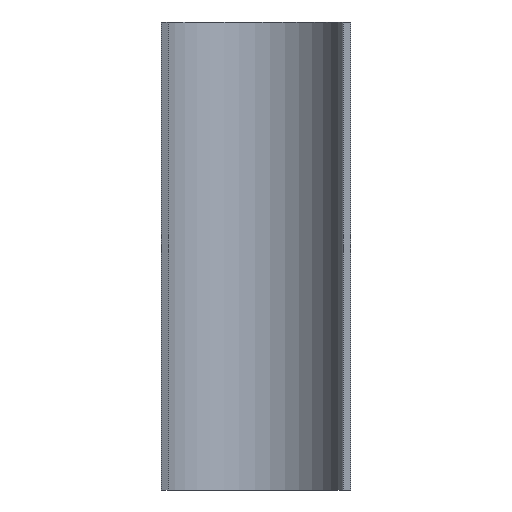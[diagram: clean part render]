
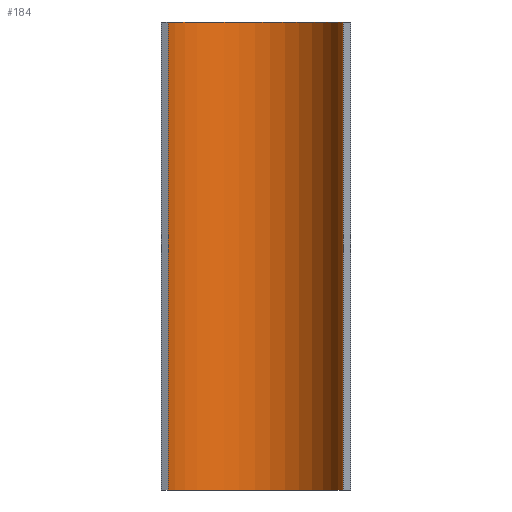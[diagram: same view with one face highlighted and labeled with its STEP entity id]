
A CAD part, left-side view. The second image highlights one B-rep face of the part: STEP entity #184.
In plain terms, the highlighted cylindrical face has radius 37 mm (diameter 74 mm), a partial arc.
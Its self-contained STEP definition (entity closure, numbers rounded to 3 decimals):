
#20 = CIRCLE ( 'NONE', #97, 37. ) ;
#32 = CIRCLE ( 'NONE', #309, 37. ) ;
#34 = VERTEX_POINT ( 'NONE', #304 ) ;
#47 = CARTESIAN_POINT ( 'NONE',  ( 14.439, 34.066, 190. ) ) ;
#49 = EDGE_CURVE ( 'NONE', #106, #134, #20, .T. ) ;
#50 = DIRECTION ( 'NONE',  ( 1., 0., 0. ) ) ;
#52 = DIRECTION ( 'NONE',  ( 0., 0., 1. ) ) ;
#73 = DIRECTION ( 'NONE',  ( 0., 0., -1. ) ) ;
#75 = FACE_OUTER_BOUND ( 'NONE', #316, .T. ) ;
#80 = CARTESIAN_POINT ( 'NONE',  ( 0., 0., 190. ) ) ;
#97 = AXIS2_PLACEMENT_3D ( 'NONE', #124, #244, #330 ) ;
#105 = DIRECTION ( 'NONE',  ( 0., 0., -1. ) ) ;
#106 = VERTEX_POINT ( 'NONE', #194 ) ;
#121 = VECTOR ( 'NONE', #180, 1000. ) ;
#124 = CARTESIAN_POINT ( 'NONE',  ( 0., 0., 0. ) ) ;
#130 = CYLINDRICAL_SURFACE ( 'NONE', #322, 37. ) ;
#132 = ORIENTED_EDGE ( 'NONE', *, *, #332, .T. ) ;
#134 = VERTEX_POINT ( 'NONE', #192 ) ;
#145 = VECTOR ( 'NONE', #73, 1000. ) ;
#149 = LINE ( 'NONE', #288, #145 ) ;
#175 = DIRECTION ( 'NONE',  ( -1., 0., 0. ) ) ;
#178 = EDGE_CURVE ( 'NONE', #34, #106, #149, .T. ) ;
#180 = DIRECTION ( 'NONE',  ( 0., 0., -1. ) ) ;
#182 = ORIENTED_EDGE ( 'NONE', *, *, #314, .T. ) ;
#184 = ADVANCED_FACE ( 'NONE', ( #75 ), #130, .F. ) ;
#192 = CARTESIAN_POINT ( 'NONE',  ( 14.439, 34.066, 0. ) ) ;
#194 = CARTESIAN_POINT ( 'NONE',  ( 0., -37., 0. ) ) ;
#209 = VERTEX_POINT ( 'NONE', #224 ) ;
#224 = CARTESIAN_POINT ( 'NONE',  ( 14.439, 34.066, 190. ) ) ;
#232 = LINE ( 'NONE', #47, #121 ) ;
#244 = DIRECTION ( 'NONE',  ( 0., 0., 1. ) ) ;
#288 = CARTESIAN_POINT ( 'NONE',  ( 0., -37., 190. ) ) ;
#292 = ORIENTED_EDGE ( 'NONE', *, *, #178, .F. ) ;
#295 = ORIENTED_EDGE ( 'NONE', *, *, #49, .F. ) ;
#304 = CARTESIAN_POINT ( 'NONE',  ( 0., -37., 190. ) ) ;
#307 = CARTESIAN_POINT ( 'NONE',  ( 0., 0., 190. ) ) ;
#309 = AXIS2_PLACEMENT_3D ( 'NONE', #80, #52, #50 ) ;
#314 = EDGE_CURVE ( 'NONE', #209, #134, #232, .T. ) ;
#316 = EDGE_LOOP ( 'NONE', ( #295, #292, #132, #182 ) ) ;
#322 = AXIS2_PLACEMENT_3D ( 'NONE', #307, #105, #175 ) ;
#330 = DIRECTION ( 'NONE',  ( 1., 0., 0. ) ) ;
#332 = EDGE_CURVE ( 'NONE', #34, #209, #32, .T. ) ;
